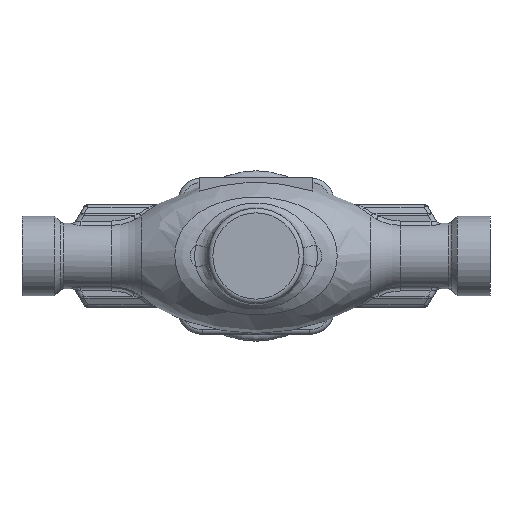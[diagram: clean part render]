
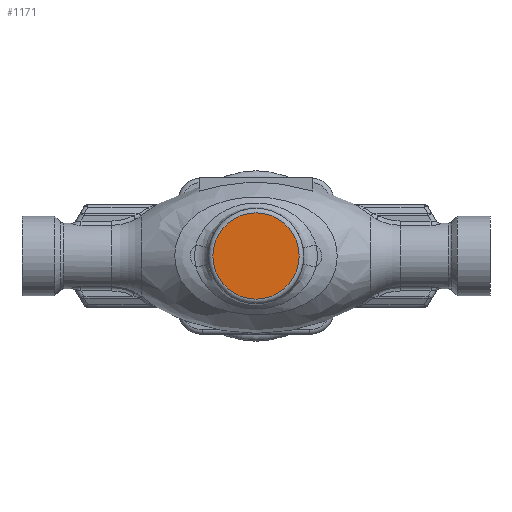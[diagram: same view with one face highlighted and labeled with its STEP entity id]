
A CAD part, front view. The second image highlights one B-rep face of the part: STEP entity #1171.
In plain terms, the highlighted planar face has unit normal (0, -1, 0).
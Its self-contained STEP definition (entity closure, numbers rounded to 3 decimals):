
#181=FACE_OUTER_BOUND('',#2442,.T.);
#1171=ADVANCED_FACE('',(#181),#1621,.F.);
#1621=PLANE('',#6880);
#2442=EDGE_LOOP('',(#3214));
#3214=ORIENTED_EDGE('',*,*,#5638,.T.);
#5039=VERTEX_POINT('',#10819);
#5638=EDGE_CURVE('',#5039,#5039,#6430,.T.);
#6430=CIRCLE('',#6879,19.);
#6879=AXIS2_PLACEMENT_3D('',#10818,#7829,#7830);
#6880=AXIS2_PLACEMENT_3D('',#10820,#7831,#7832);
#7829=DIRECTION('',(0.,-1.,0.));
#7830=DIRECTION('',(0.,0.,-1.));
#7831=DIRECTION('',(0.,1.,0.));
#7832=DIRECTION('',(0.,0.,-1.));
#10818=CARTESIAN_POINT('',(0.,-47.,0.));
#10819=CARTESIAN_POINT('',(0.,-47.,-19.));
#10820=CARTESIAN_POINT('',(0.,-47.,0.));
